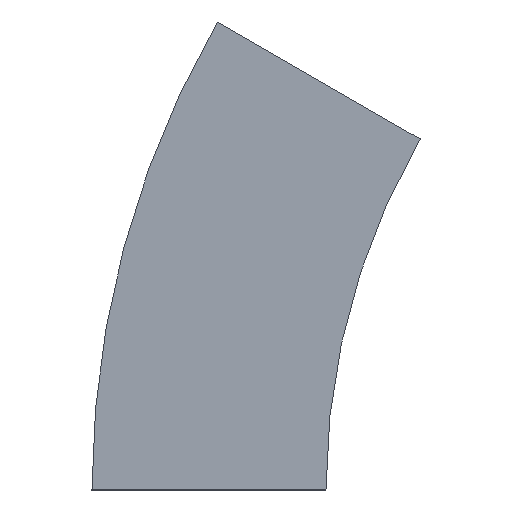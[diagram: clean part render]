
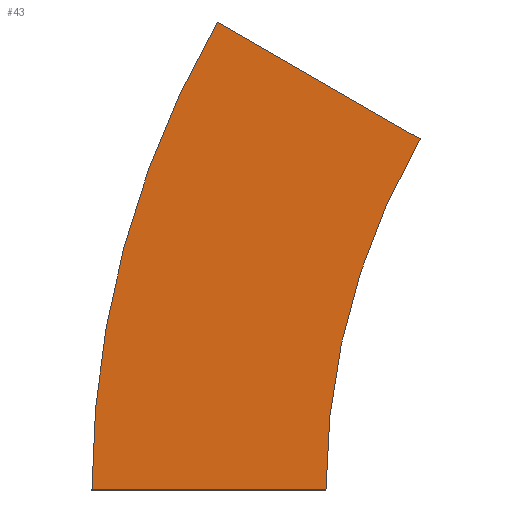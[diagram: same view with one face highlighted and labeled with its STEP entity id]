
A CAD part, left-side view. The second image highlights one B-rep face of the part: STEP entity #43.
In plain terms, the highlighted planar face has unit normal (-1, 0, 0) as drawn and (1, 0, 0) by its records, which use the part's own axes.
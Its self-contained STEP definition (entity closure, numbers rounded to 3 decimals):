
#4 = CARTESIAN_POINT ( 'NONE',  ( 0., -300., 0. ) ) ;
#19 = AXIS2_PLACEMENT_3D ( 'NONE', #515, #419, #553 ) ;
#23 = CARTESIAN_POINT ( 'NONE',  ( 0., 0., 0. ) ) ;
#43 = ADVANCED_FACE ( 'NONE', ( #110 ), #300, .T. ) ;
#44 = AXIS2_PLACEMENT_3D ( 'NONE', #217, #441, #362 ) ;
#110 = FACE_OUTER_BOUND ( 'NONE', #555, .T. ) ;
#122 = VERTEX_POINT ( 'NONE', #257 ) ;
#155 = EDGE_CURVE ( 'NONE', #373, #417, #268, .T. ) ;
#193 = EDGE_CURVE ( 'NONE', #236, #122, #329, .T. ) ;
#203 = ORIENTED_EDGE ( 'NONE', *, *, #424, .F. ) ;
#217 = CARTESIAN_POINT ( 'NONE',  ( 0., -300., 0. ) ) ;
#231 = VECTOR ( 'NONE', #547, 1000. ) ;
#236 = VERTEX_POINT ( 'NONE', #351 ) ;
#239 = EDGE_CURVE ( 'NONE', #373, #236, #260, .T. ) ;
#257 = CARTESIAN_POINT ( 'NONE',  ( 0., 46.41, 200. ) ) ;
#260 = LINE ( 'NONE', #474, #526 ) ;
#268 = CIRCLE ( 'NONE', #320, 300. ) ;
#293 = LINE ( 'NONE', #494, #231 ) ;
#300 = PLANE ( 'NONE',  #19 ) ;
#320 = AXIS2_PLACEMENT_3D ( 'NONE', #4, #402, #471 ) ;
#329 = CIRCLE ( 'NONE', #44, 400. ) ;
#337 = CARTESIAN_POINT ( 'NONE',  ( 0., -40.192, 150. ) ) ;
#351 = CARTESIAN_POINT ( 'NONE',  ( 0., 100., 0. ) ) ;
#362 = DIRECTION ( 'NONE',  ( 0., 1., 0. ) ) ;
#373 = VERTEX_POINT ( 'NONE', #23 ) ;
#402 = DIRECTION ( 'NONE',  ( 1., 0., 0. ) ) ;
#405 = ORIENTED_EDGE ( 'NONE', *, *, #239, .T. ) ;
#417 = VERTEX_POINT ( 'NONE', #337 ) ;
#419 = DIRECTION ( 'NONE',  ( 1., 0., 0. ) ) ;
#424 = EDGE_CURVE ( 'NONE', #417, #122, #293, .T. ) ;
#441 = DIRECTION ( 'NONE',  ( 1., 0., 0. ) ) ;
#471 = DIRECTION ( 'NONE',  ( 0., 1., 0. ) ) ;
#474 = CARTESIAN_POINT ( 'NONE',  ( 0., 0., 0. ) ) ;
#479 = DIRECTION ( 'NONE',  ( 0., 1., 0. ) ) ;
#494 = CARTESIAN_POINT ( 'NONE',  ( 0., -40.192, 150. ) ) ;
#515 = CARTESIAN_POINT ( 'NONE',  ( 0., 0., 0. ) ) ;
#517 = ORIENTED_EDGE ( 'NONE', *, *, #155, .F. ) ;
#526 = VECTOR ( 'NONE', #479, 1000. ) ;
#539 = ORIENTED_EDGE ( 'NONE', *, *, #193, .T. ) ;
#547 = DIRECTION ( 'NONE',  ( 0., 0.866, 0.5 ) ) ;
#553 = DIRECTION ( 'NONE',  ( 0., 0., -1. ) ) ;
#555 = EDGE_LOOP ( 'NONE', ( #539, #203, #517, #405 ) ) ;
